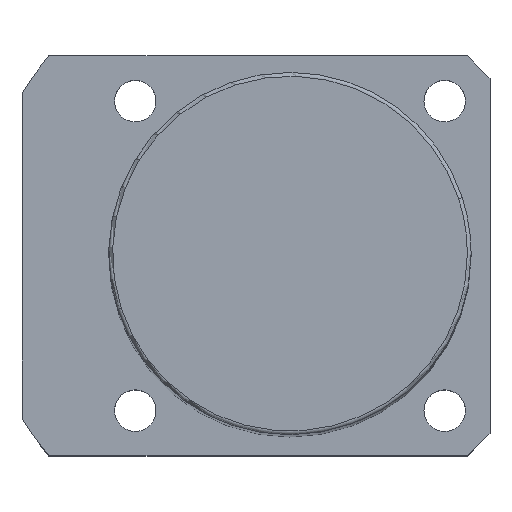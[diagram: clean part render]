
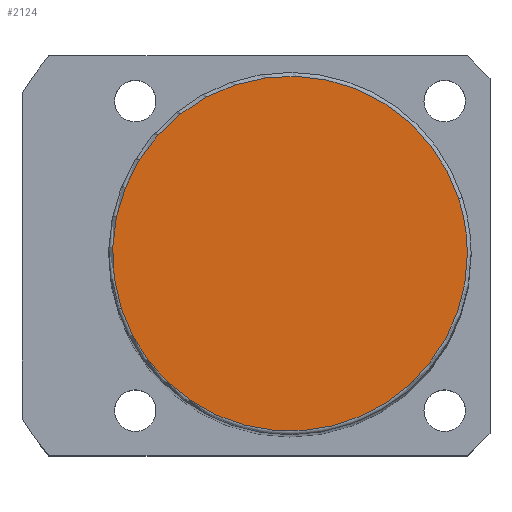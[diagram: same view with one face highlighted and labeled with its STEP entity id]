
A CAD part, top view. The second image highlights one B-rep face of the part: STEP entity #2124.
In plain terms, the highlighted planar face has unit normal (0, 0, 1).
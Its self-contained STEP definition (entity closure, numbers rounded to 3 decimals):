
#2057=CARTESIAN_POINT('',(22.35,7.262,184.0));
#2058=VERTEX_POINT('',#2057);
#2076=CARTESIAN_POINT('',(-22.35,-7.262,184.0));
#2077=VERTEX_POINT('',#2076);
#2085=CARTESIAN_POINT('',(0.0,0.0,184.0));
#2086=DIRECTION('',(0.0,0.0,1.0));
#2087=DIRECTION('',(1.0,0.0,0.0));
#2088=AXIS2_PLACEMENT_3D('',#2085,#2086,#2087);
#2089=CIRCLE('',#2088,23.5);
#2090=EDGE_CURVE('no 2149',#2058,#2077,#2089,.T.);
#2100=CARTESIAN_POINT('',(23.5,0.0,184.0));
#2101=VERTEX_POINT('',#2100);
#2102=CARTESIAN_POINT('',(0.0,0.0,184.0));
#2103=DIRECTION('',(0.0,0.0,1.0));
#2104=DIRECTION('',(1.0,0.0,0.0));
#2105=AXIS2_PLACEMENT_3D('',#2102,#2103,#2104);
#2106=CIRCLE('',#2105,23.5);
#2107=EDGE_CURVE('no 2158',#2101,#2058,#2106,.T.);
#2108=ORIENTED_EDGE('',*,*,#2107,.T.);
#2109=ORIENTED_EDGE('',*,*,#2090,.T.);
#2110=CARTESIAN_POINT('',(0.0,0.0,184.0));
#2111=DIRECTION('',(0.0,0.0,1.0));
#2112=DIRECTION('',(1.0,0.0,0.0));
#2113=AXIS2_PLACEMENT_3D('',#2110,#2111,#2112);
#2114=CIRCLE('',#2113,23.5);
#2115=EDGE_CURVE('no 2164',#2077,#2101,#2114,.T.);
#2116=ORIENTED_EDGE('',*,*,#2115,.T.);
#2117=EDGE_LOOP('',(#2108,#2109,#2116));
#2118=FACE_OUTER_BOUND('',#2117,.T.);
#2119=CARTESIAN_POINT('',(0.0,0.0,184.0));
#2120=DIRECTION('',(0.0,0.0,1.0));
#2121=DIRECTION('',(1.0,0.0,0.0));
#2122=AXIS2_PLACEMENT_3D('',#2119,#2120,#2121);
#2123=PLANE('',#2122);
#2124=ADVANCED_FACE('no 2151',(#2118),#2123,.T.);
